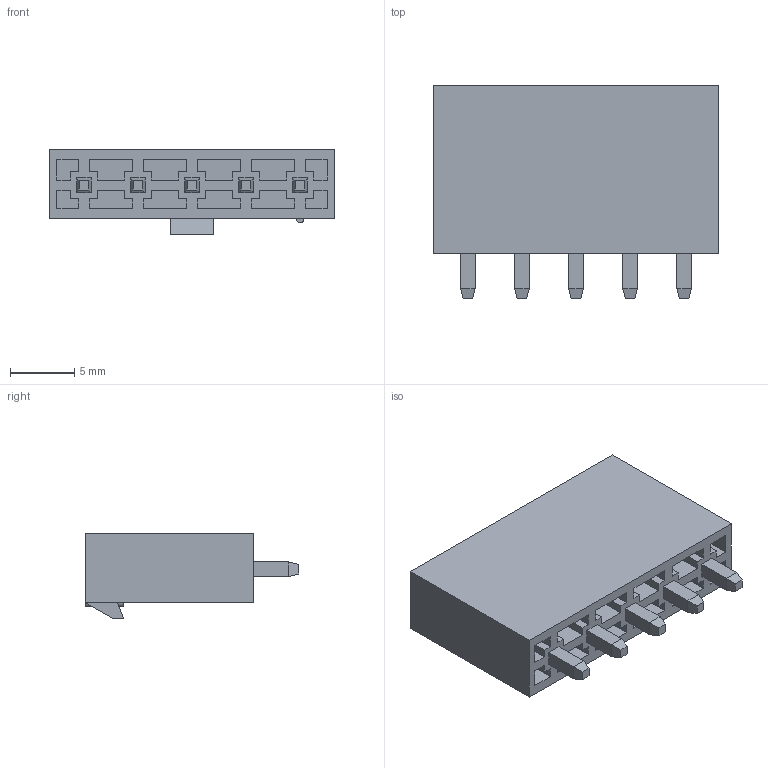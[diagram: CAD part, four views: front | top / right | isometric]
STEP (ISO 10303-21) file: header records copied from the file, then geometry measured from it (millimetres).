
FILE_DESCRIPTION(('CATIA V5 STEP Exchange'),'2;1');
FILE_NAME('F:\黄富鸿\条形连接器\4.20系列\01、02--5557（单、双排）\NA\HC-5557-5A-05（4.20 单排 直针-HCTL）.stp','2025-12-04T09:49:25+00:00',('none'),('none'),'CATIA Version 5 Release 20 GA (IN-10)','CATIA V5 STEP AP203','none');
FILE_SCHEMA(('CONFIG_CONTROL_DESIGN'));
Length unit declared in the file: millimetre
Products named in the file (1): Part3
Bounding box: 22.2 x 16.6 x 6.65 mm (x, y, z)
Volume: 864.1 mm3; surface area: 2361.9 mm2
Topology: 6 solids, 6 shells, 234 faces, 573 edges, 368 vertices
Faces by surface type: plane 233, cylinder 1
Entity records: 6068 total; most frequent: ORIENTED_EDGE 1146, CARTESIAN_POINT 1091, DIRECTION 751, EDGE_CURVE 573, VECTOR 531, LINE 531, VERTEX_POINT 368, EDGE_LOOP 261
